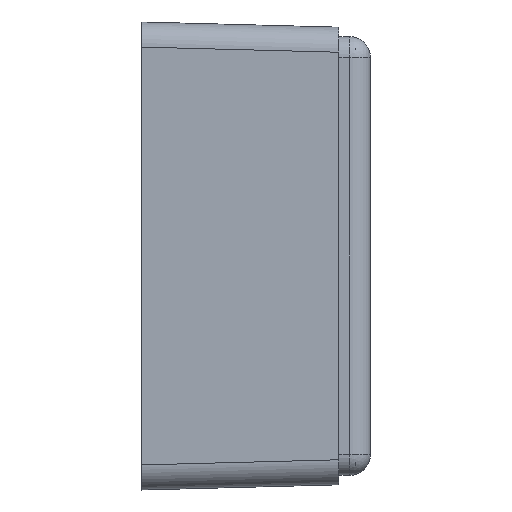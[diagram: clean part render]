
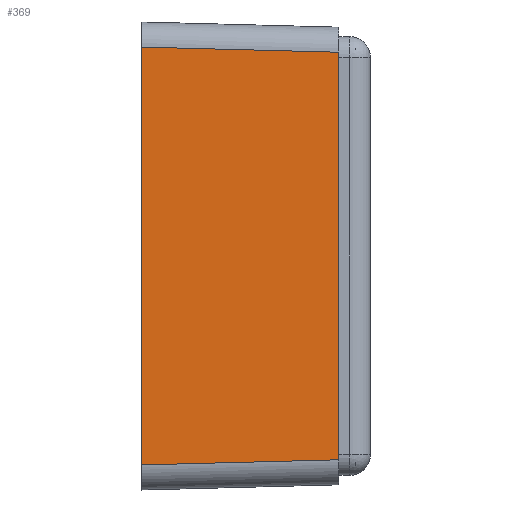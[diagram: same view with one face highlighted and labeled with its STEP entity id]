
A CAD part, left-side view. The second image highlights one B-rep face of the part: STEP entity #369.
In plain terms, the highlighted planar face has unit normal (-1, -0.026, 0).
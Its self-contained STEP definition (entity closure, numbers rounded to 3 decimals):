
#28 = CARTESIAN_POINT ( 'NONE',  ( -60.25, 0., -28. ) ) ;
#31 = ORIENTED_EDGE ( 'NONE', *, *, #674, .F. ) ;
#98 = EDGE_LOOP ( 'NONE', ( #448, #1003, #1083, #31 ) ) ;
#131 = CARTESIAN_POINT ( 'NONE',  ( -59.632, -23.6, 24.383 ) ) ;
#282 = VECTOR ( 'NONE', #1229, 1000. ) ;
#323 = DIRECTION ( 'NONE',  ( -1., -0.026, 0. ) ) ;
#362 = CARTESIAN_POINT ( 'NONE',  ( -59.632, -23.6, -24.383 ) ) ;
#369 = ADVANCED_FACE ( 'NONE', ( #500 ), #2152, .T. ) ;
#392 = CARTESIAN_POINT ( 'NONE',  ( -60.252, 0.078, -25.003 ) ) ;
#406 = LINE ( 'NONE', #392, #2488 ) ;
#448 = ORIENTED_EDGE ( 'NONE', *, *, #1169, .T. ) ;
#500 = FACE_OUTER_BOUND ( 'NONE', #98, .T. ) ;
#512 = CARTESIAN_POINT ( 'NONE',  ( -60.25, 0., -28. ) ) ;
#537 = DIRECTION ( 'NONE',  ( 0.026, -1., 0. ) ) ;
#563 = DIRECTION ( 'NONE',  ( 0., 0., 1. ) ) ;
#674 = EDGE_CURVE ( 'NONE', #2463, #1253, #844, .T. ) ;
#700 = EDGE_CURVE ( 'NONE', #809, #1253, #2014, .T. ) ;
#809 = VERTEX_POINT ( 'NONE', #131 ) ;
#844 = LINE ( 'NONE', #28, #282 ) ;
#1003 = ORIENTED_EDGE ( 'NONE', *, *, #2208, .T. ) ;
#1083 = ORIENTED_EDGE ( 'NONE', *, *, #700, .T. ) ;
#1159 = VERTEX_POINT ( 'NONE', #362 ) ;
#1169 = EDGE_CURVE ( 'NONE', #2463, #1159, #406, .T. ) ;
#1180 = VECTOR ( 'NONE', #563, 1000. ) ;
#1229 = DIRECTION ( 'NONE',  ( 0., 0., 1. ) ) ;
#1253 = VERTEX_POINT ( 'NONE', #1985 ) ;
#1563 = CARTESIAN_POINT ( 'NONE',  ( -60.214, -1.386, 24.965 ) ) ;
#1619 = LINE ( 'NONE', #2582, #1180 ) ;
#1985 = CARTESIAN_POINT ( 'NONE',  ( -60.25, 0., 25.001 ) ) ;
#1999 = DIRECTION ( 'NONE',  ( 0.026, -0.999, 0.026 ) ) ;
#2014 = LINE ( 'NONE', #1563, #2563 ) ;
#2152 = PLANE ( 'NONE',  #2254 ) ;
#2208 = EDGE_CURVE ( 'NONE', #1159, #809, #1619, .T. ) ;
#2254 = AXIS2_PLACEMENT_3D ( 'NONE', #512, #323, #537 ) ;
#2463 = VERTEX_POINT ( 'NONE', #2478 ) ;
#2478 = CARTESIAN_POINT ( 'NONE',  ( -60.25, 0., -25.001 ) ) ;
#2488 = VECTOR ( 'NONE', #1999, 1000. ) ;
#2563 = VECTOR ( 'NONE', #2579, 1000. ) ;
#2579 = DIRECTION ( 'NONE',  ( -0.026, 0.999, 0.026 ) ) ;
#2582 = CARTESIAN_POINT ( 'NONE',  ( -59.632, -23.6, -28. ) ) ;
